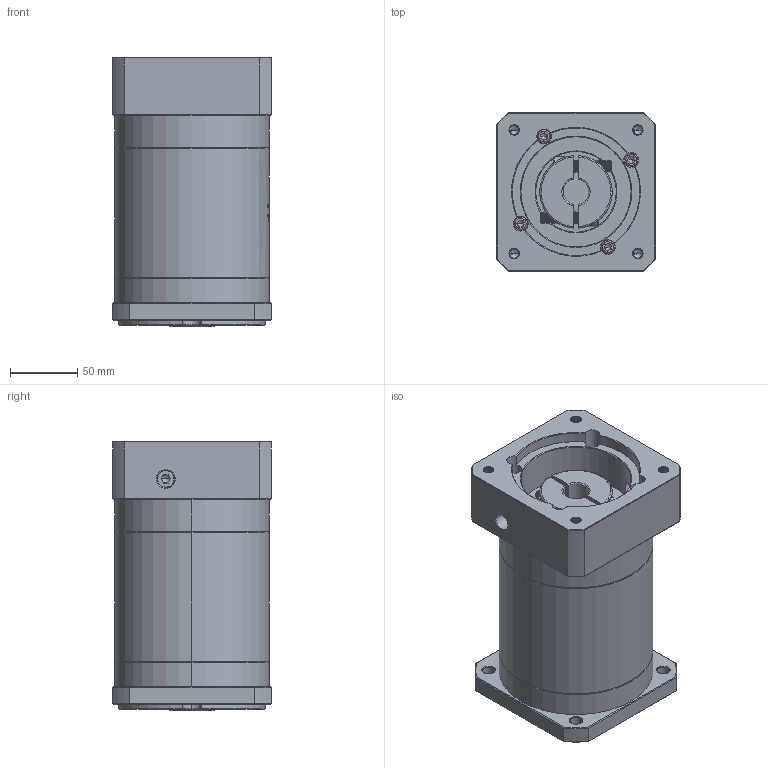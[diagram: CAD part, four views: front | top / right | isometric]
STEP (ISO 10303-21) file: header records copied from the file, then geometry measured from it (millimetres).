
FILE_DESCRIPTION (( 'STEP AP214' ), '1' );
FILE_NAME ('ZF120A-K25-L3-19-95-130-M8.step', '2023-03-07T09:39:14', ( '' ), ( '' ), 'SwSTEP 2.0', 'SolidWorks 2016', '' );
FILE_SCHEMA (( 'AUTOMOTIVE_DESIGN' ));
Length unit declared in the file: millimetre
Products named in the file (1): ZF120A-K25-L3-19-95-130-M8
Bounding box: 118 x 118 x 200.5 mm (x, y, z)
Volume: 2010387.3 mm3; surface area: 184063.9 mm2
Topology: 6 solids, 6 shells, 1895 faces, 4965 edges, 3164 vertices
Faces by surface type: plane 850, cylinder 392, cone 321, bspline 312, torus 20
Entity records: 101691 total; most frequent: CARTESIAN_POINT 37750, ORIENTED_EDGE 9874, DIRECTION 7697, EDGE_CURVE 4937, VERTEX_POINT 3164, VECTOR 2697, LINE 2697, AXIS2_PLACEMENT_3D 2500
